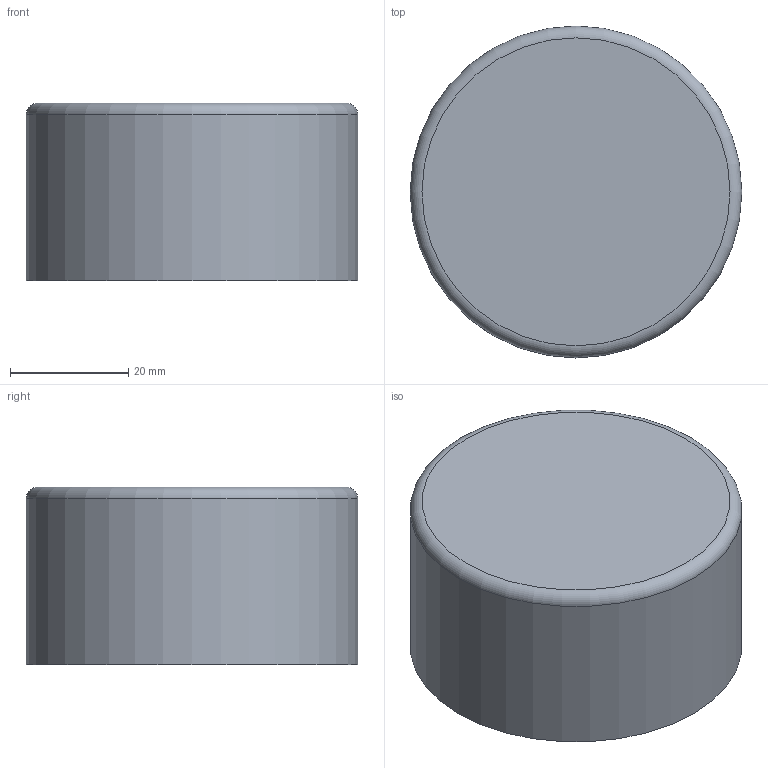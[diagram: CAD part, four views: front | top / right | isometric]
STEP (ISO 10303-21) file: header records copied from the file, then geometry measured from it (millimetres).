
FILE_DESCRIPTION(/* description */ (''),/* implementation_level */ '2;1');
FILE_NAME(/* name */ 'C:\Geberit-Teile\Export\Enddeckel\stp\305005.stp',/* time_stamp */ '2019-03-25T17:29:50+01:00',/* author */ ('seihe2'),/* organization */ (''),/* preprocessor_version */ 'ST-DEVELOPER v17',/* originating_system */ 'Autodesk Inventor 2018',/* authorisation */ '');
FILE_SCHEMA (('AUTOMOTIVE_DESIGN { 1 0 10303 214 3 1 1 }'));
Length unit declared in the file: millimetre
Products named in the file (1): Enddeckel PE-S2 d56 L3
Bounding box: 56 x 56 x 30 mm (x, y, z)
Volume: 21958.6 mm3; surface area: 14227.2 mm2
Topology: 1 solids, 1 shells, 6 faces, 13 edges, 10 vertices
Faces by surface type: plane 3, cylinder 2, torus 1
Full cylindrical faces by diameter (mm): 49.6 x1, 56 x1
Entity records: 232 total; most frequent: DIRECTION 38, CARTESIAN_POINT 30, ORIENTED_EDGE 26, AXIS2_PLACEMENT_3D 18, EDGE_CURVE 13, CIRCLE 11, VERTEX_POINT 10, EDGE_LOOP 7
